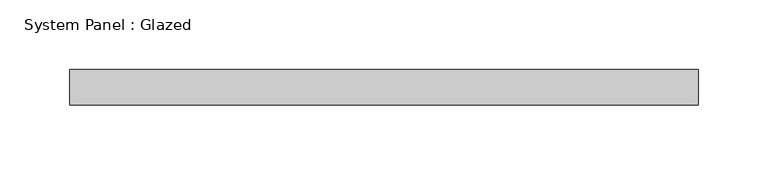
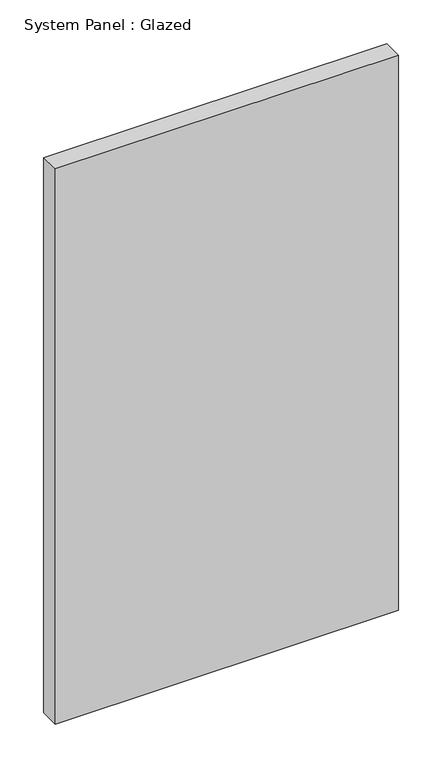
"""IFC4 building model written with IfcOpenShell, lengths in millimetres: plate geometry, System Panel : Glazed."""

from ifc_helpers import new_model, si_unit, origin, origin_with_axes, place, context, project, spatial, polyline, outline, extrude, source, transform, mapped, element, save


def system_panel_glazed_a648036f(model_context):
    return source(origin(), model_context, "Body", "SweptSolid", [
        extrude(outline(polyline([(225.4, 19.05), (-225.4, 19.05), (-225.4, 44.45), (225.4, 44.45), (225.4, 19.05)])), origin_with_axes(), (0.0, 0.0, 1.0), 770.6690025),
    ])


if __name__ == "__main__":
    model = new_model("IFC4")
    model_context = context("Model", 3, world=origin())
    ifc_project = project(units=[si_unit("LENGTHUNIT", "METRE", prefix="MILLI")], contexts=[model_context])
    site = spatial("IfcSite", under=ifc_project)
    building = spatial("IfcBuilding", under=site)
    placement = place(None, origin())
    system_panel_glazed_shape = system_panel_glazed_a648036f(model_context)
    element("IfcPlate", 1, ObjectType="System Panel : Glazed", at=placement, inside=building, context=model_context, shape_type="MappedRepresentation", body=[
        mapped(system_panel_glazed_shape, transform((0.0, 0.0, 0.0), x_axis=(1.0, 0.0, 0.0), y_axis=(0.0, 1.0, 0.0), z_axis=(0.0, 0.0, 1.0))),
    ])
    save(model, "model.ifc")
